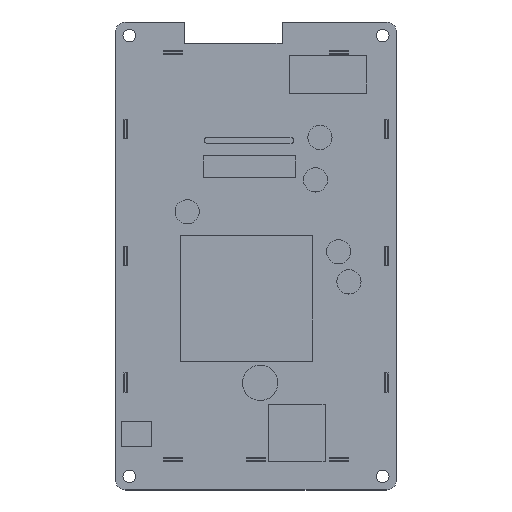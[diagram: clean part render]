
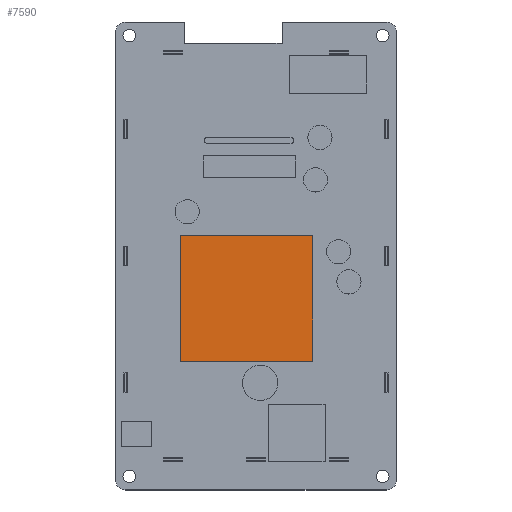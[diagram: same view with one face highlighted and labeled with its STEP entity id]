
A CAD part, top view. The second image highlights one B-rep face of the part: STEP entity #7590.
In plain terms, the highlighted planar face has unit normal (0, 0, 1).
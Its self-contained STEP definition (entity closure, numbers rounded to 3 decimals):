
#2323=DIRECTION('',(-1.,0.,0.));
#2324=VECTOR('',#2323,34.417);
#2325=CARTESIAN_POINT('',(14.783,5.334,5.2));
#2326=LINE('',#2325,#2324);
#2327=DIRECTION('',(0.,1.,0.));
#2328=VECTOR('',#2327,32.766);
#2329=CARTESIAN_POINT('',(14.783,-27.432,5.2));
#2330=LINE('',#2329,#2328);
#2331=DIRECTION('',(1.,0.,0.));
#2332=VECTOR('',#2331,34.417);
#2333=CARTESIAN_POINT('',(-19.634,-27.432,5.2));
#2334=LINE('',#2333,#2332);
#2335=DIRECTION('',(0.,-1.,0.));
#2336=VECTOR('',#2335,32.766);
#2337=CARTESIAN_POINT('',(-19.634,5.334,5.2));
#2338=LINE('',#2337,#2336);
#2769=CARTESIAN_POINT('',(14.783,5.334,5.2));
#2770=CARTESIAN_POINT('',(-19.634,5.334,5.2));
#2771=VERTEX_POINT('',#2769);
#2772=VERTEX_POINT('',#2770);
#2773=CARTESIAN_POINT('',(-19.634,-27.432,5.2));
#2774=VERTEX_POINT('',#2773);
#2775=CARTESIAN_POINT('',(14.783,-27.432,5.2));
#2776=VERTEX_POINT('',#2775);
#7579=CARTESIAN_POINT('',(-36.576,58.42,5.2));
#7580=DIRECTION('',(0.,0.,1.));
#7581=DIRECTION('',(0.,-1.,0.));
#7582=AXIS2_PLACEMENT_3D('',#7579,#7580,#7581);
#7583=PLANE('',#7582);
#7584=ORIENTED_EDGE('',*,*,#7503,.F.);
#7585=ORIENTED_EDGE('',*,*,#7525,.F.);
#7586=ORIENTED_EDGE('',*,*,#7546,.F.);
#7587=ORIENTED_EDGE('',*,*,#7566,.F.);
#7588=EDGE_LOOP('',(#7584,#7585,#7586,#7587));
#7589=FACE_OUTER_BOUND('',#7588,.F.);
#7503=EDGE_CURVE('',#2771,#2772,#2326,.T.);
#7525=EDGE_CURVE('',#2776,#2771,#2330,.T.);
#7546=EDGE_CURVE('',#2774,#2776,#2334,.T.);
#7566=EDGE_CURVE('',#2772,#2774,#2338,.T.);
#7590=ADVANCED_FACE('',(#7589),#7583,.T.);
